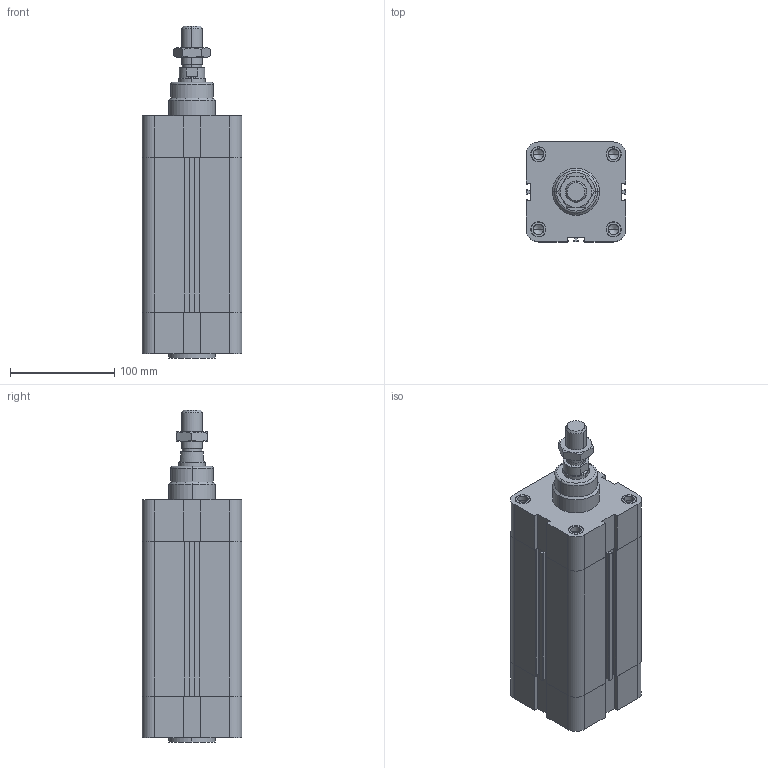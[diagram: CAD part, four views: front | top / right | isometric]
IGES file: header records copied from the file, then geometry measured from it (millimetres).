
Global section: file name: No Iges File Name specified; native system: Autodesk Inventor 2010; preprocessor: AutoDesk Inventor Iges Exporter R2010; author: rivolro1; date: 20090707.103413; units: millimetre
Bounding box: 95.5 x 95.5 x 318 mm (x, y, z)
Volume: 1608660.9 mm3; surface area: 237533.8 mm2
Topology: 5 solids, 5 shells, 290 faces, 694 edges, 440 vertices
Faces by surface type: plane 120, bspline 74, cylinder 40, revolution 34, cone 20, torus 2
